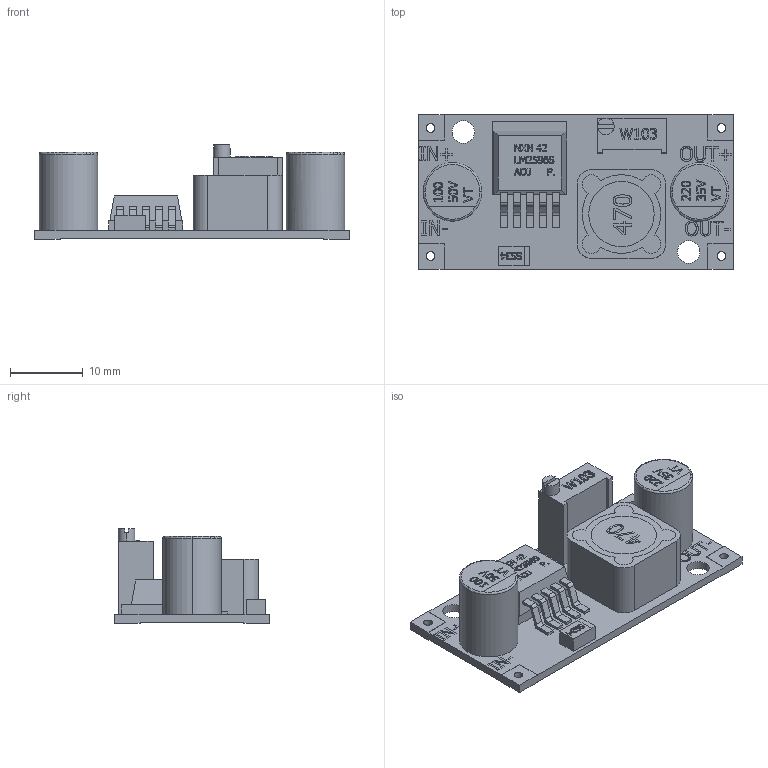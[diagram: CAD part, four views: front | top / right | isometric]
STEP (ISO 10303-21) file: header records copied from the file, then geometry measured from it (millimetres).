
FILE_DESCRIPTION (( 'STEP AP214' ), '1' );
FILE_NAME ('A580ED2F-558D-4D3D-A8E0-A6D192AD57FB.STEP', '2026-08-24T10:14:20', ( '' ), ( '' ), 'SwSTEP 2.0', 'SolidWorks 2022', '' );
FILE_SCHEMA (( 'AUTOMOTIVE_DESIGN' ));
Length unit declared in the file: millimetre
Products named in the file (1): A580ED2F-558D-4D3D-A8E0-A6D192AD57FB
Bounding box: 43.3 x 21.3 x 13 mm (x, y, z)
Volume: 4101.7 mm3; surface area: 3455.1 mm2
Topology: 1 solids, 1 shells, 1368 faces, 3752 edges, 2497 vertices
Faces by surface type: plane 789, bspline 523, cylinder 52, torus 4
Entity records: 50724 total; most frequent: CARTESIAN_POINT 15852, ORIENTED_EDGE 7504, DIRECTION 4519, EDGE_CURVE 3752, LINE 2585, VECTOR 2585, VERTEX_POINT 2497, EDGE_LOOP 1501
